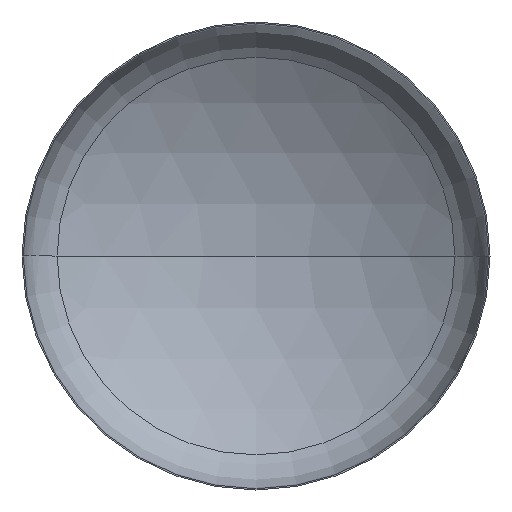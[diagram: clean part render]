
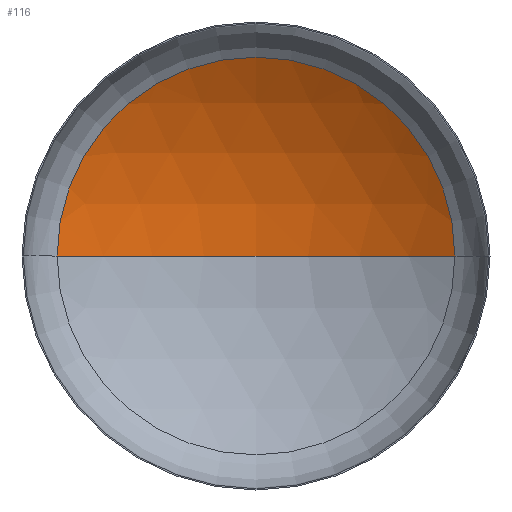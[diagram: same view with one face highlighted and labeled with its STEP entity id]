
A CAD part, front view. The second image highlights one B-rep face of the part: STEP entity #116.
In plain terms, the highlighted spherical face has radius 5600 mm.
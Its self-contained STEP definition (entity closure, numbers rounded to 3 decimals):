
#5 = CARTESIAN_POINT ( 'NONE',  ( 0., -3769.569, 0. ) ) ;
#14 = ORIENTED_EDGE ( 'NONE', *, *, #367, .T. ) ;
#33 = CARTESIAN_POINT ( 'NONE',  ( 0., 975.03, 0. ) ) ;
#65 = CARTESIAN_POINT ( 'NONE',  ( 0., 1830.431, 0. ) ) ;
#99 = DIRECTION ( 'NONE',  ( -1., 0., 0. ) ) ;
#108 = CARTESIAN_POINT ( 'NONE',  ( 0., -3769.569, 0. ) ) ;
#110 = DIRECTION ( 'NONE',  ( 0., 0., -1. ) ) ;
#116 = ADVANCED_FACE ( 'NONE', ( #330 ), #244, .F. ) ;
#128 = DIRECTION ( 'NONE',  ( 0., -1., 0. ) ) ;
#147 = ORIENTED_EDGE ( 'NONE', *, *, #352, .F. ) ;
#162 = VERTEX_POINT ( 'NONE', #376 ) ;
#171 = CARTESIAN_POINT ( 'NONE',  ( 0., -3769.569, 0. ) ) ;
#209 = DIRECTION ( 'NONE',  ( 1., 0., 0. ) ) ;
#211 = CIRCLE ( 'NONE', #335, 5600. ) ;
#235 = CARTESIAN_POINT ( 'NONE',  ( -2974.69, 975.03, 0. ) ) ;
#243 = DIRECTION ( 'NONE',  ( 0., 0., -1. ) ) ;
#244 = SPHERICAL_SURFACE ( 'NONE', #380, 5600. ) ;
#262 = ORIENTED_EDGE ( 'NONE', *, *, #389, .T. ) ;
#271 = DIRECTION ( 'NONE',  ( 1., 0., 0. ) ) ;
#290 = DIRECTION ( 'NONE',  ( -1., 0., 0. ) ) ;
#301 = AXIS2_PLACEMENT_3D ( 'NONE', #171, #386, #209 ) ;
#313 = VERTEX_POINT ( 'NONE', #235 ) ;
#330 = FACE_OUTER_BOUND ( 'NONE', #341, .T. ) ;
#335 = AXIS2_PLACEMENT_3D ( 'NONE', #5, #243, #99 ) ;
#340 = CIRCLE ( 'NONE', #371, 2974.69 ) ;
#341 = EDGE_LOOP ( 'NONE', ( #147, #14, #262 ) ) ;
#349 = CIRCLE ( 'NONE', #301, 5600. ) ;
#352 = EDGE_CURVE ( 'NONE', #379, #313, #349, .T. ) ;
#367 = EDGE_CURVE ( 'NONE', #379, #162, #211, .T. ) ;
#371 = AXIS2_PLACEMENT_3D ( 'NONE', #33, #128, #271 ) ;
#376 = CARTESIAN_POINT ( 'NONE',  ( 2974.69, 975.03, 0. ) ) ;
#379 = VERTEX_POINT ( 'NONE', #65 ) ;
#380 = AXIS2_PLACEMENT_3D ( 'NONE', #108, #110, #290 ) ;
#386 = DIRECTION ( 'NONE',  ( 0., 0., 1. ) ) ;
#389 = EDGE_CURVE ( 'NONE', #162, #313, #340, .T. ) ;
